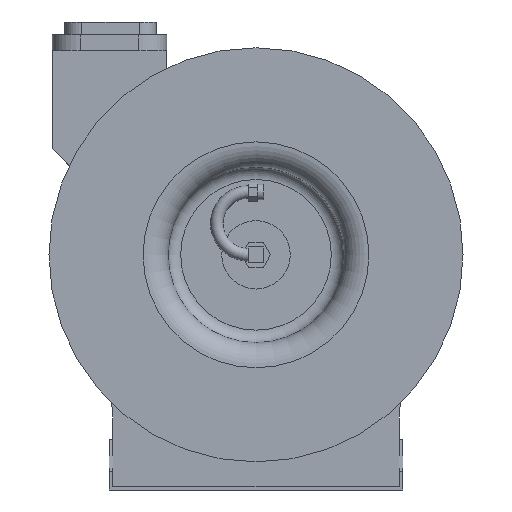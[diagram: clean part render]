
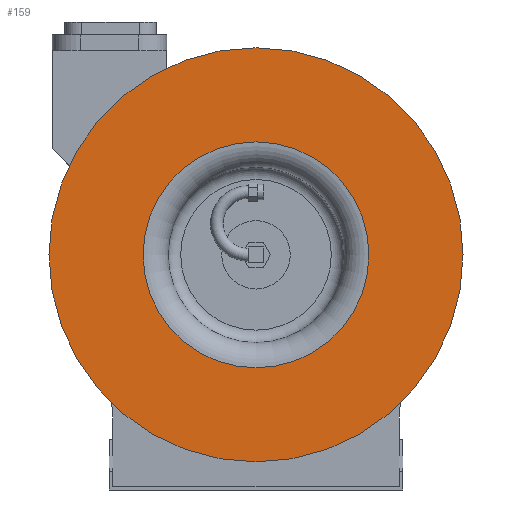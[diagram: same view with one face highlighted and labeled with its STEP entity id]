
A CAD part, front view. The second image highlights one B-rep face of the part: STEP entity #159.
In plain terms, the highlighted planar face has unit normal (0, -1, 0).
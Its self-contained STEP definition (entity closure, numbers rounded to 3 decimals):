
#159 = ADVANCED_FACE( '', ( #437, #438 ), #439, .F. );
#437 = FACE_BOUND( '', #870, .T. );
#438 = FACE_OUTER_BOUND( '', #871, .T. );
#439 = PLANE( '', #872 );
#870 = EDGE_LOOP( '', ( #1324 ) );
#871 = EDGE_LOOP( '', ( #1325 ) );
#872 = AXIS2_PLACEMENT_3D( '', #1326, #1327, #1328 );
#1324 = ORIENTED_EDGE( '', *, *, #2342, .F. );
#1325 = ORIENTED_EDGE( '', *, *, #2332, .T. );
#1326 = CARTESIAN_POINT( '', ( 0., -161.257, 209.55 ) );
#1327 = DIRECTION( '', ( 0., 1., 0. ) );
#1328 = DIRECTION( '', ( 0., 0., 1. ) );
#2332 = EDGE_CURVE( '', #2743, #2743, #2744, .T. );
#2342 = EDGE_CURVE( '', #2760, #2760, #2761, .T. );
#2743 = VERTEX_POINT( '', #3328 );
#2744 = CIRCLE( '', #3329, 209.55 );
#2760 = VERTEX_POINT( '', #3347 );
#2761 = CIRCLE( '', #3348, 114.3 );
#3328 = CARTESIAN_POINT( '', ( 0., -161.257, -209.55 ) );
#3329 = AXIS2_PLACEMENT_3D( '', #4128, #4129, #4130 );
#3347 = CARTESIAN_POINT( '', ( 0., -161.257, -114.3 ) );
#3348 = AXIS2_PLACEMENT_3D( '', #4148, #4149, #4150 );
#4128 = CARTESIAN_POINT( '', ( 0., -161.257, 0. ) );
#4129 = DIRECTION( '', ( 0., -1., 0. ) );
#4130 = DIRECTION( '', ( 0., 0., -1. ) );
#4148 = CARTESIAN_POINT( '', ( 0., -161.257, 0. ) );
#4149 = DIRECTION( '', ( 0., -1., 0. ) );
#4150 = DIRECTION( '', ( 0., 0., -1. ) );
